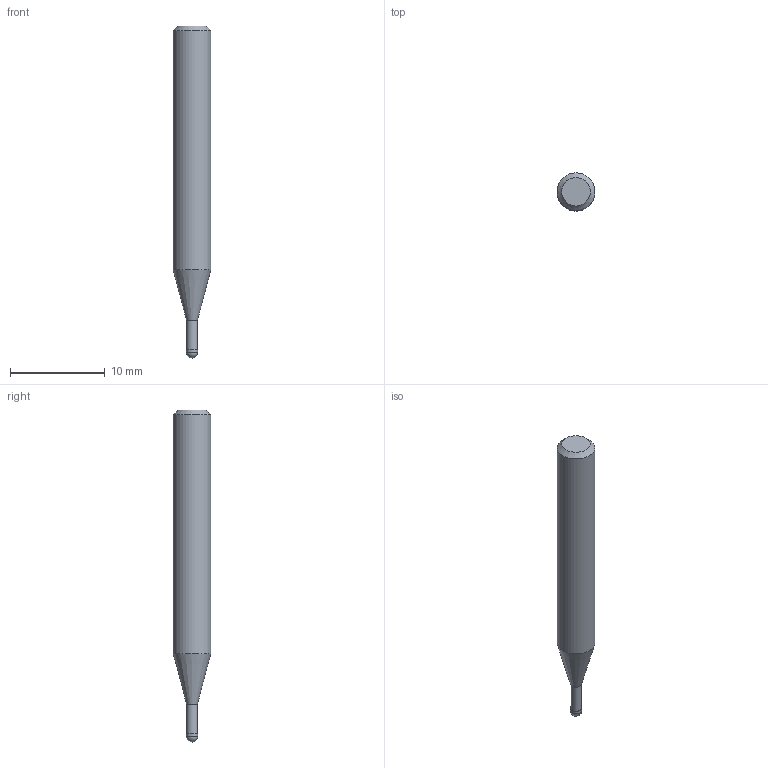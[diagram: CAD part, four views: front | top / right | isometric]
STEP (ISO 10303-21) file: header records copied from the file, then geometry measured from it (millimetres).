
FILE_DESCRIPTION((''),'2;1');
FILE_NAME('C:\Users\nsx150\AppData\Local\Temp\Mastercam 2021\QT8KEW0Y7J\TEMP.step','2021-04-23T11:21:13',(''),(''),'STEP Write','Mastercam 2021 ... CNC Software, Inc.','');
FILE_SCHEMA(('AUTOMOTIVE_DESIGN'));
Length unit declared in the file: millimetre
Products named in the file (1): None
Bounding box: 4 x 4 x 35 mm (x, y, z)
Volume: 355.8 mm3; surface area: 392.6 mm2
Topology: 2 solids, 2 shells, 9 faces, 14 edges, 8 vertices
Faces by surface type: plane 3, cylinder 3, cone 2, sphere 1
Full cylindrical faces by diameter (mm): 1.15 x1, 1.2 x1, 4 x1
Entity records: 211 total; most frequent: DIRECTION 36, CARTESIAN_POINT 25, AXIS2_PLACEMENT_3D 18, ORIENTED_EDGE 14, EDGE_LOOP 14, STYLED_ITEM 12, ADVANCED_FACE 9, FACE_BOUND 8
